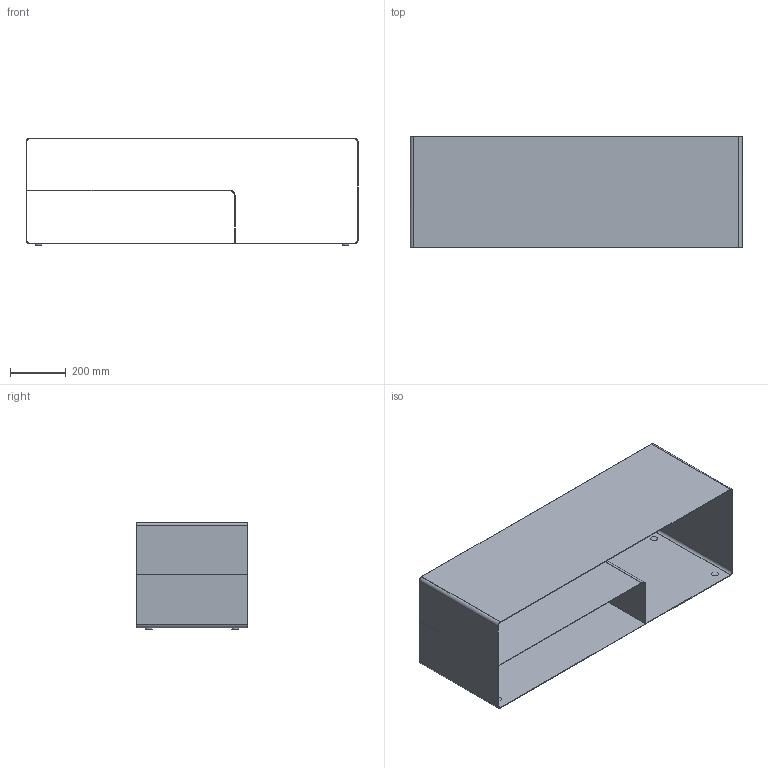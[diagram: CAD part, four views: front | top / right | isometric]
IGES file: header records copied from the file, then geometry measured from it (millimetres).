
Start section: Comment
Global section: file name: R111N.igs; native system:  By UGS Corp.; preprocessor: XPlus GENERIC/IGES 3.0; author: Author; organization: Title; date: 20151109.130341; units: inch
Bounding box: 1195 x 400 x 387 mm (x, y, z)
Surface area: 3260519.2 mm2 (no closed solid volume)
Topology: 0 solids, 0 shells, 38 faces, 192 edges, 192 vertices
Faces by surface type: bspline 38
